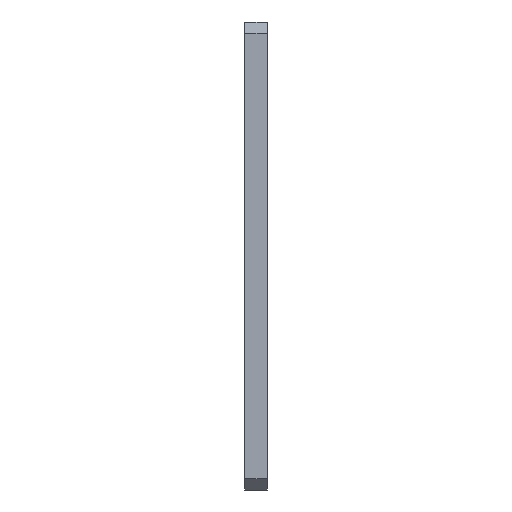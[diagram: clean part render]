
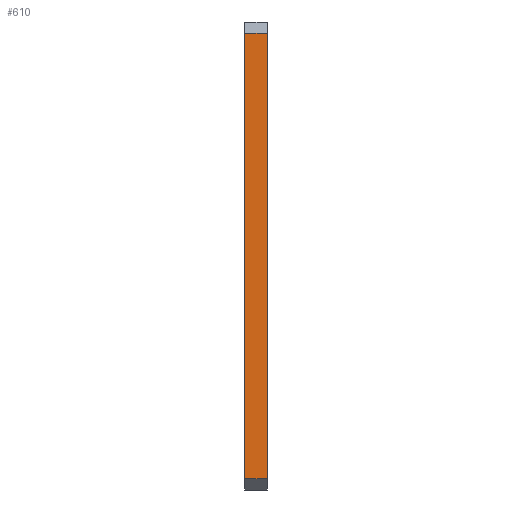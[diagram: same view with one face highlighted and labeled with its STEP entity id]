
A CAD part, left-side view. The second image highlights one B-rep face of the part: STEP entity #610.
In plain terms, the highlighted planar face has unit normal (-1, 0, 0).
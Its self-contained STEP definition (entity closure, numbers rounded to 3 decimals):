
#205 = VERTEX_POINT ( 'NONE', #1631 ) ;
#315 = FACE_OUTER_BOUND ( 'NONE', #1165, .T. ) ;
#430 = CARTESIAN_POINT ( 'NONE',  ( -150., 10., -97.5 ) ) ;
#442 = CARTESIAN_POINT ( 'NONE',  ( -150., 10., 102.5 ) ) ;
#486 = DIRECTION ( 'NONE',  ( 0., 0., -1. ) ) ;
#577 = VERTEX_POINT ( 'NONE', #1063 ) ;
#610 = ADVANCED_FACE ( 'NONE', ( #315 ), #706, .F. ) ;
#626 = DIRECTION ( 'NONE',  ( 1., 0., 0. ) ) ;
#645 = ORIENTED_EDGE ( 'NONE', *, *, #1026, .T. ) ;
#700 = DIRECTION ( 'NONE',  ( 0., 0., 1. ) ) ;
#706 = PLANE ( 'NONE',  #1620 ) ;
#723 = CARTESIAN_POINT ( 'NONE',  ( -150., 10., 97.5 ) ) ;
#763 = ORIENTED_EDGE ( 'NONE', *, *, #1473, .T. ) ;
#781 = LINE ( 'NONE', #1290, #811 ) ;
#811 = VECTOR ( 'NONE', #1533, 1000. ) ;
#824 = LINE ( 'NONE', #430, #1404 ) ;
#847 = ORIENTED_EDGE ( 'NONE', *, *, #1553, .T. ) ;
#985 = LINE ( 'NONE', #723, #1154 ) ;
#1026 = EDGE_CURVE ( 'NONE', #577, #1069, #985, .T. ) ;
#1043 = VERTEX_POINT ( 'NONE', #1339 ) ;
#1063 = CARTESIAN_POINT ( 'NONE',  ( -150., 0., 97.5 ) ) ;
#1069 = VERTEX_POINT ( 'NONE', #1603 ) ;
#1075 = LINE ( 'NONE', #442, #1145 ) ;
#1127 = DIRECTION ( 'NONE',  ( 0., 1., 0. ) ) ;
#1145 = VECTOR ( 'NONE', #700, 1000. ) ;
#1154 = VECTOR ( 'NONE', #1127, 1000. ) ;
#1161 = CARTESIAN_POINT ( 'NONE',  ( -150., 10., 102.5 ) ) ;
#1165 = EDGE_LOOP ( 'NONE', ( #1421, #763, #847, #645 ) ) ;
#1290 = CARTESIAN_POINT ( 'NONE',  ( -150., 0., 102.5 ) ) ;
#1303 = DIRECTION ( 'NONE',  ( 0., -1., 0. ) ) ;
#1339 = CARTESIAN_POINT ( 'NONE',  ( -150., 10., -97.5 ) ) ;
#1404 = VECTOR ( 'NONE', #1303, 1000. ) ;
#1421 = ORIENTED_EDGE ( 'NONE', *, *, #1462, .F. ) ;
#1462 = EDGE_CURVE ( 'NONE', #1043, #1069, #1075, .T. ) ;
#1473 = EDGE_CURVE ( 'NONE', #1043, #205, #824, .T. ) ;
#1533 = DIRECTION ( 'NONE',  ( 0., 0., 1. ) ) ;
#1553 = EDGE_CURVE ( 'NONE', #205, #577, #781, .T. ) ;
#1603 = CARTESIAN_POINT ( 'NONE',  ( -150., 10., 97.5 ) ) ;
#1620 = AXIS2_PLACEMENT_3D ( 'NONE', #1161, #626, #486 ) ;
#1631 = CARTESIAN_POINT ( 'NONE',  ( -150., 0., -97.5 ) ) ;
